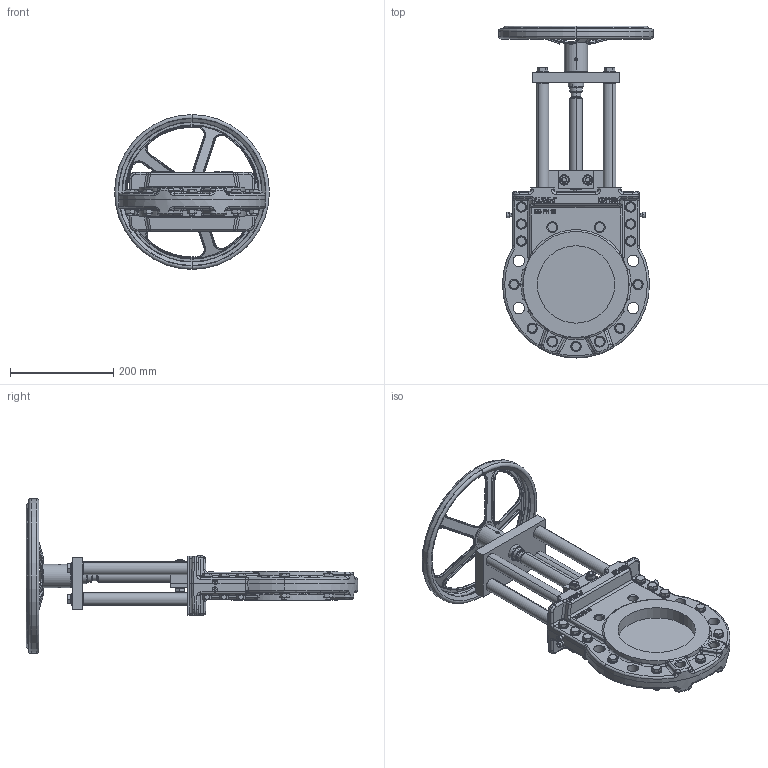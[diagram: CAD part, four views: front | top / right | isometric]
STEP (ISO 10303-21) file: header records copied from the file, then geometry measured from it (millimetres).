
FILE_DESCRIPTION (( 'STEP AP214' ), '1' );
FILE_NAME ('MGA DN 0150 PN16 (DH 300).STEP', '2015-09-23T08:04:06', ( 'admin' ), ( 'Hewlett-Packard Company' ), 'SwSTEP 2.0', 'SolidWorks 2013', '' );
FILE_SCHEMA (( 'AUTOMOTIVE_DESIGN' ));
Length unit declared in the file: millimetre
Products named in the file (1): MGA DN 0150 PN16 (DH 300)
Bounding box: 300 x 643 x 300 mm (x, y, z)
Volume: 4313417.4 mm3; surface area: 676194.3 mm2
Topology: 66 solids, 75 shells, 2339 faces, 5394 edges, 3260 vertices
Faces by surface type: plane 862, cylinder 592, cone 467, bspline 256, torus 136, sphere 26
Entity records: 107676 total; most frequent: CARTESIAN_POINT 30010, ORIENTED_EDGE 10724, DIRECTION 10452, EDGE_CURVE 5362, AXIS2_PLACEMENT_3D 4152, VERTEX_POINT 3260, EDGE_LOOP 2576, UNCERTAINTY_MEASURE_WITH_UNIT 2405
